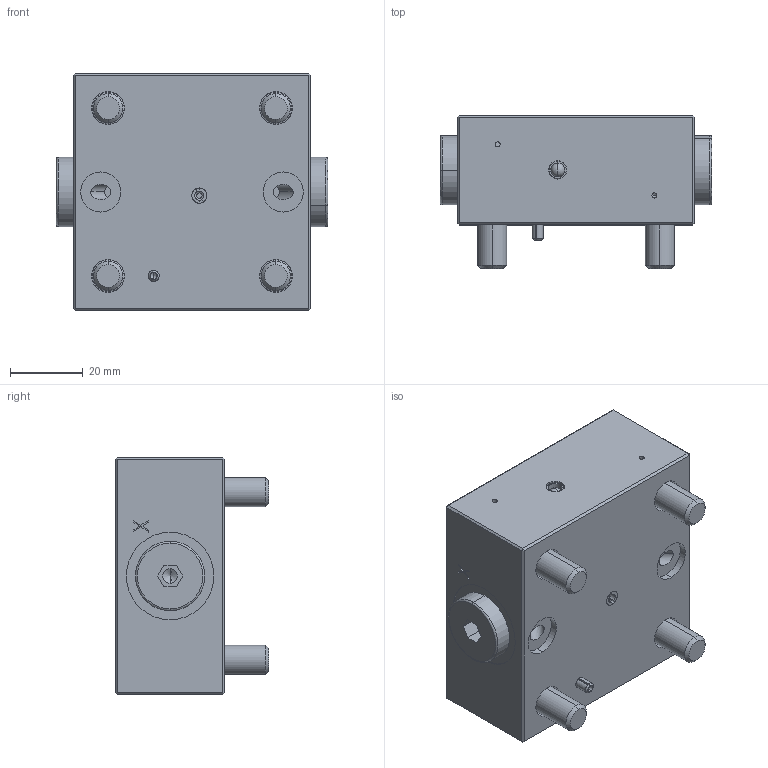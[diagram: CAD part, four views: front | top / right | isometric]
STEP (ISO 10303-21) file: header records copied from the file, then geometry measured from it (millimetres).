
FILE_DESCRIPTION (( 'STEP AP214' ), '1' );
FILE_NAME ('D16...3_2.STEP', '2017-03-17T12:34:02', ( '' ), ( '' ), 'SwSTEP 2.0', 'SolidWorks 2016', '' );
FILE_SCHEMA (( 'AUTOMOTIVE_DESIGN' ));
Length unit declared in the file: millimetre
Products named in the file (1): D16...3_2
Bounding box: 74.4 x 42 x 65 mm (x, y, z)
Volume: 124014.9 mm3; surface area: 28695.7 mm2
Topology: 5 solids, 8 shells, 351 faces, 787 edges, 477 vertices
Faces by surface type: plane 165, cylinder 112, cone 48, torus 20, sphere 6
Entity records: 13473 total; most frequent: DIRECTION 1781, CARTESIAN_POINT 1654, ORIENTED_EDGE 1530, EDGE_CURVE 765, AXIS2_PLACEMENT_3D 678, VERTEX_POINT 477, LINE 425, VECTOR 425
